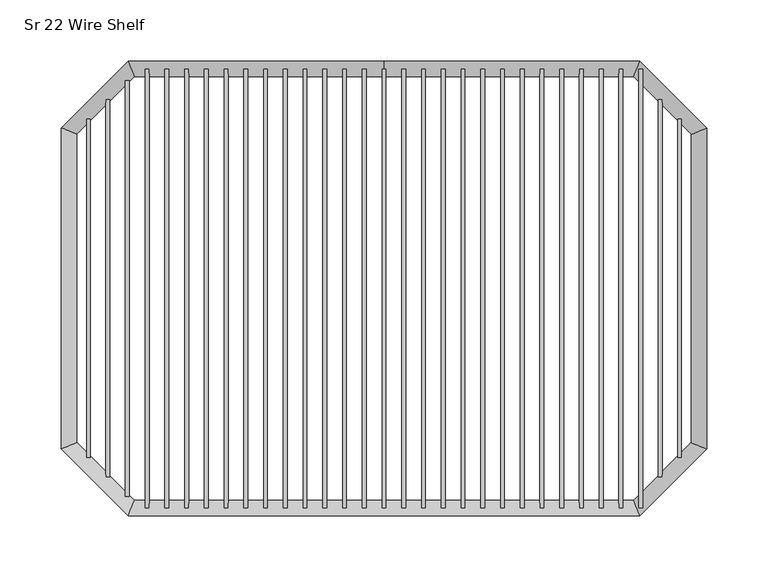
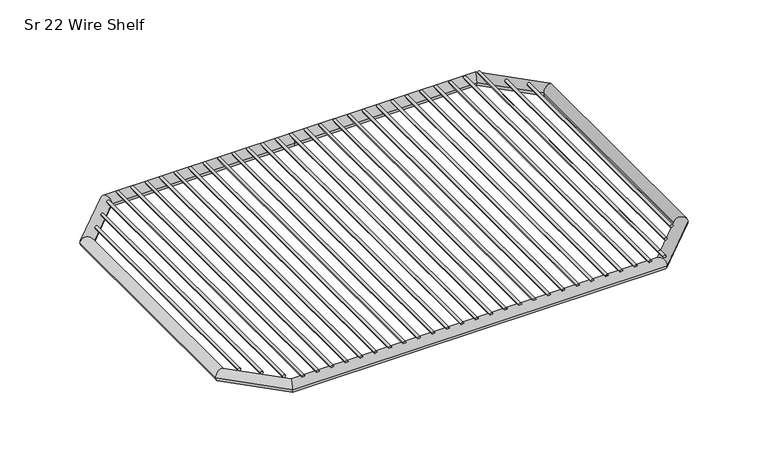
"""IFC4 building model written with IfcOpenShell, lengths in millimetres: furniture geometry, HermanMiller_Carts_CT521_CartShelf : Sr 22 Wire Shelf."""

from ifc_helpers import new_model, si_unit, point, frame, frame_2d, origin, place, context, project, spatial, circle_curve, ellipse_curve, trimmed, segment, composite_curve, outline, extrude, source, transform, mapped, element, save
from ifc_brep_helpers import cylinder_surface, advanced_brep


def sr_22_wire_shelf_b2b4e824(model_context):
    return source(origin(), model_context, "Body", "SolidModel", [
        extrude(outline(composite_curve([segment(trimmed(circle_curve(frame_2d((609.6089246, 104.1704938)), 1.5875), [point((609.6089246, 102.5829938))], [point((609.6089246, 105.7579938))], False, "CARTESIAN"), True, "CONTINUOUS"), segment(trimmed(circle_curve(frame_2d((609.6089246, 104.1704938)), 1.5875), [point((609.6089246, 105.7579938))], [point((609.6089246, 102.5829938))], False, "CARTESIAN"), True, "CONTINUOUS")], self_intersect=False)), frame((0.0, -206.375, 0.0), z_axis=(0.0, 1.0, 0.0), x_axis=(0.0, 0.0, 1.0)), (0.0, 0.0, 1.0), 358.775),
        extrude(outline(composite_curve([segment(trimmed(circle_curve(frame_2d((609.6089246, 120.2897246)), 1.5875), [point((609.6089246, 118.7022246))], [point((609.6089246, 121.8772246))], False, "CARTESIAN"), True, "CONTINUOUS"), segment(trimmed(circle_curve(frame_2d((609.6089246, 120.2897246)), 1.5875), [point((609.6089246, 121.8772246))], [point((609.6089246, 118.7022246))], False, "CARTESIAN"), True, "CONTINUOUS")], self_intersect=False)), frame((0.0, -206.375, 0.0), z_axis=(0.0, 1.0, 0.0), x_axis=(0.0, 0.0, 1.0)), (0.0, 0.0, 1.0), 358.775),
        extrude(outline(composite_curve([segment(trimmed(circle_curve(frame_2d((609.6089246, 136.4089553)), 1.5875), [point((609.6089246, 134.8214553))], [point((609.6089246, 137.9964553))], False, "CARTESIAN"), True, "CONTINUOUS"), segment(trimmed(circle_curve(frame_2d((609.6089246, 136.4089553)), 1.5875), [point((609.6089246, 137.9964553))], [point((609.6089246, 134.8214553))], False, "CARTESIAN"), True, "CONTINUOUS")], self_intersect=False)), frame((0.0, -206.375, 0.0), z_axis=(0.0, 1.0, 0.0), x_axis=(0.0, 0.0, 1.0)), (0.0, 0.0, 1.0), 358.775),
        extrude(outline(composite_curve([segment(trimmed(circle_curve(frame_2d((609.6089246, 152.5281861)), 1.5875), [point((609.6089246, 150.9406861))], [point((609.6089246, 154.1156861))], False, "CARTESIAN"), True, "CONTINUOUS"), segment(trimmed(circle_curve(frame_2d((609.6089246, 152.5281861)), 1.5875), [point((609.6089246, 154.1156861))], [point((609.6089246, 150.9406861))], False, "CARTESIAN"), True, "CONTINUOUS")], self_intersect=False)), frame((0.0, -206.375, 0.0), z_axis=(0.0, 1.0, 0.0), x_axis=(0.0, 0.0, 1.0)), (0.0, 0.0, 1.0), 358.775),
        extrude(outline(composite_curve([segment(trimmed(circle_curve(frame_2d((609.6089246, 88.051263)), 1.5875), [point((609.6089246, 86.463763))], [point((609.6089246, 89.638763))], False, "CARTESIAN"), True, "CONTINUOUS"), segment(trimmed(circle_curve(frame_2d((609.6089246, 88.051263)), 1.5875), [point((609.6089246, 89.638763))], [point((609.6089246, 86.463763))], False, "CARTESIAN"), True, "CONTINUOUS")], self_intersect=False)), frame((0.0, -206.375, 0.0), z_axis=(0.0, 1.0, 0.0), x_axis=(0.0, 0.0, 1.0)), (0.0, 0.0, 1.0), 358.775),
        extrude(outline(composite_curve([segment(trimmed(circle_curve(frame_2d((609.6089246, 71.9320323)), 1.5875), [point((609.6089246, 70.3445323))], [point((609.6089246, 73.5195323))], False, "CARTESIAN"), True, "CONTINUOUS"), segment(trimmed(circle_curve(frame_2d((609.6089246, 71.9320323)), 1.5875), [point((609.6089246, 73.5195323))], [point((609.6089246, 70.3445323))], False, "CARTESIAN"), True, "CONTINUOUS")], self_intersect=False)), frame((0.0, -206.375, 0.0), z_axis=(0.0, 1.0, 0.0), x_axis=(0.0, 0.0, 1.0)), (0.0, 0.0, 1.0), 358.775),
        extrude(outline(composite_curve([segment(trimmed(circle_curve(frame_2d((609.6089246, -40.9025831)), 1.5875), [point((609.6089246, -42.4900831))], [point((609.6089246, -39.3150831))], False, "CARTESIAN"), True, "CONTINUOUS"), segment(trimmed(circle_curve(frame_2d((609.6089246, -40.9025831)), 1.5875), [point((609.6089246, -39.3150831))], [point((609.6089246, -42.4900831))], False, "CARTESIAN"), True, "CONTINUOUS")], self_intersect=False)), frame((0.0, -206.375, 0.0), z_axis=(0.0, 1.0, 0.0), x_axis=(0.0, 0.0, 1.0)), (0.0, 0.0, 1.0), 358.775),
        extrude(outline(composite_curve([segment(trimmed(circle_curve(frame_2d((609.6089246, -24.7833523)), 1.5875), [point((609.6089246, -26.3708523))], [point((609.6089246, -23.1958523))], False, "CARTESIAN"), True, "CONTINUOUS"), segment(trimmed(circle_curve(frame_2d((609.6089246, -24.7833523)), 1.5875), [point((609.6089246, -23.1958523))], [point((609.6089246, -26.3708523))], False, "CARTESIAN"), True, "CONTINUOUS")], self_intersect=False)), frame((0.0, -206.375, 0.0), z_axis=(0.0, 1.0, 0.0), x_axis=(0.0, 0.0, 1.0)), (0.0, 0.0, 1.0), 358.775),
        extrude(outline(composite_curve([segment(trimmed(circle_curve(frame_2d((609.6089246, -57.0218139)), 1.5875), [point((609.6089246, -58.6093139))], [point((609.6089246, -55.4343139))], False, "CARTESIAN"), True, "CONTINUOUS"), segment(trimmed(circle_curve(frame_2d((609.6089246, -57.0218139)), 1.5875), [point((609.6089246, -55.4343139))], [point((609.6089246, -58.6093139))], False, "CARTESIAN"), True, "CONTINUOUS")], self_intersect=False)), frame((0.0, -206.375, 0.0), z_axis=(0.0, 1.0, 0.0), x_axis=(0.0, 0.0, 1.0)), (0.0, 0.0, 1.0), 358.775),
        extrude(outline(composite_curve([segment(trimmed(circle_curve(frame_2d((609.6089246, -8.6641216)), 1.5875), [point((609.6089246, -10.2516216))], [point((609.6089246, -7.0766216))], False, "CARTESIAN"), True, "CONTINUOUS"), segment(trimmed(circle_curve(frame_2d((609.6089246, -8.6641216)), 1.5875), [point((609.6089246, -7.0766216))], [point((609.6089246, -10.2516216))], False, "CARTESIAN"), True, "CONTINUOUS")], self_intersect=False)), frame((0.0, -206.375, 0.0), z_axis=(0.0, 1.0, 0.0), x_axis=(0.0, 0.0, 1.0)), (0.0, 0.0, 1.0), 358.775),
        extrude(outline(composite_curve([segment(trimmed(circle_curve(frame_2d((609.6089246, 39.6935707)), 1.5875), [point((609.6089246, 38.1060707))], [point((609.6089246, 41.2810707))], False, "CARTESIAN"), True, "CONTINUOUS"), segment(trimmed(circle_curve(frame_2d((609.6089246, 39.6935707)), 1.5875), [point((609.6089246, 41.2810707))], [point((609.6089246, 38.1060707))], False, "CARTESIAN"), True, "CONTINUOUS")], self_intersect=False)), frame((0.0, -206.375, 0.0), z_axis=(0.0, 1.0, 0.0), x_axis=(0.0, 0.0, 1.0)), (0.0, 0.0, 1.0), 358.775),
        extrude(outline(composite_curve([segment(trimmed(circle_curve(frame_2d((609.6089246, 7.4551092)), 1.5875), [point((609.6089246, 5.8676092))], [point((609.6089246, 9.0426092))], False, "CARTESIAN"), True, "CONTINUOUS"), segment(trimmed(circle_curve(frame_2d((609.6089246, 7.4551092)), 1.5875), [point((609.6089246, 9.0426092))], [point((609.6089246, 5.8676092))], False, "CARTESIAN"), True, "CONTINUOUS")], self_intersect=False)), frame((0.0, -206.375, 0.0), z_axis=(0.0, 1.0, 0.0), x_axis=(0.0, 0.0, 1.0)), (0.0, 0.0, 1.0), 358.775),
        extrude(outline(composite_curve([segment(trimmed(circle_curve(frame_2d((609.6089246, 55.8128015)), 1.5875), [point((609.6089246, 54.2253015))], [point((609.6089246, 57.4003015))], False, "CARTESIAN"), True, "CONTINUOUS"), segment(trimmed(circle_curve(frame_2d((609.6089246, 55.8128015)), 1.5875), [point((609.6089246, 57.4003015))], [point((609.6089246, 54.2253015))], False, "CARTESIAN"), True, "CONTINUOUS")], self_intersect=False)), frame((0.0, -206.375, 0.0), z_axis=(0.0, 1.0, 0.0), x_axis=(0.0, 0.0, 1.0)), (0.0, 0.0, 1.0), 358.775),
        extrude(outline(composite_curve([segment(trimmed(circle_curve(frame_2d((609.6089246, 23.57434)), 1.5875), [point((609.6089246, 21.98684))], [point((609.6089246, 25.16184))], False, "CARTESIAN"), True, "CONTINUOUS"), segment(trimmed(circle_curve(frame_2d((609.6089246, 23.57434)), 1.5875), [point((609.6089246, 25.16184))], [point((609.6089246, 21.98684))], False, "CARTESIAN"), True, "CONTINUOUS")], self_intersect=False)), frame((0.0, -206.375, 0.0), z_axis=(0.0, 1.0, 0.0), x_axis=(0.0, 0.0, 1.0)), (0.0, 0.0, 1.0), 358.775),
        extrude(outline(composite_curve([segment(trimmed(circle_curve(frame_2d((609.6089246, -218.2141216)), 1.5875), [point((609.6089246, -219.8016216))], [point((609.6089246, -216.6266216))], False, "CARTESIAN"), True, "CONTINUOUS"), segment(trimmed(circle_curve(frame_2d((609.6089246, -218.2141216)), 1.5875), [point((609.6089246, -216.6266216))], [point((609.6089246, -219.8016216))], False, "CARTESIAN"), True, "CONTINUOUS")], self_intersect=False)), frame((0.0, -206.375, 0.0), z_axis=(0.0, 1.0, 0.0), x_axis=(0.0, 0.0, 1.0)), (0.0, 0.0, 1.0), 358.775),
        extrude(outline(composite_curve([segment(trimmed(circle_curve(frame_2d((609.6089246, -234.3333523)), 1.5875), [point((609.6089246, -235.9208523))], [point((609.6089246, -232.7458523))], False, "CARTESIAN"), True, "CONTINUOUS"), segment(trimmed(circle_curve(frame_2d((609.6089246, -234.3333523)), 1.5875), [point((609.6089246, -232.7458523))], [point((609.6089246, -235.9208523))], False, "CARTESIAN"), True, "CONTINUOUS")], self_intersect=False)), frame((0.0, -206.375, 0.0), z_axis=(0.0, 1.0, 0.0), x_axis=(0.0, 0.0, 1.0)), (0.0, 0.0, 1.0), 358.775),
        extrude(outline(composite_curve([segment(trimmed(circle_curve(frame_2d((609.6089246, -169.8564293)), 1.5875), [point((609.6089246, -171.4439293))], [point((609.6089246, -168.2689293))], False, "CARTESIAN"), True, "CONTINUOUS"), segment(trimmed(circle_curve(frame_2d((609.6089246, -169.8564293)), 1.5875), [point((609.6089246, -168.2689293))], [point((609.6089246, -171.4439293))], False, "CARTESIAN"), True, "CONTINUOUS")], self_intersect=False)), frame((0.0, -206.375, 0.0), z_axis=(0.0, 1.0, 0.0), x_axis=(0.0, 0.0, 1.0)), (0.0, 0.0, 1.0), 358.775),
        extrude(outline(composite_curve([segment(trimmed(circle_curve(frame_2d((609.6089246, -185.97566)), 1.5875), [point((609.6089246, -187.56316))], [point((609.6089246, -184.38816))], False, "CARTESIAN"), True, "CONTINUOUS"), segment(trimmed(circle_curve(frame_2d((609.6089246, -185.97566)), 1.5875), [point((609.6089246, -184.38816))], [point((609.6089246, -187.56316))], False, "CARTESIAN"), True, "CONTINUOUS")], self_intersect=False)), frame((0.0, -206.375, 0.0), z_axis=(0.0, 1.0, 0.0), x_axis=(0.0, 0.0, 1.0)), (0.0, 0.0, 1.0), 358.775),
        extrude(outline(composite_curve([segment(trimmed(circle_curve(frame_2d((609.6089246, -153.7371985)), 1.5875), [point((609.6089246, -155.3246985))], [point((609.6089246, -152.1496985))], False, "CARTESIAN"), True, "CONTINUOUS"), segment(trimmed(circle_curve(frame_2d((609.6089246, -153.7371985)), 1.5875), [point((609.6089246, -152.1496985))], [point((609.6089246, -155.3246985))], False, "CARTESIAN"), True, "CONTINUOUS")], self_intersect=False)), frame((0.0, -206.375, 0.0), z_axis=(0.0, 1.0, 0.0), x_axis=(0.0, 0.0, 1.0)), (0.0, 0.0, 1.0), 358.775),
        extrude(outline(composite_curve([segment(trimmed(circle_curve(frame_2d((609.6089246, -121.498737)), 1.5875), [point((609.6089246, -123.086237))], [point((609.6089246, -119.911237))], False, "CARTESIAN"), True, "CONTINUOUS"), segment(trimmed(circle_curve(frame_2d((609.6089246, -121.498737)), 1.5875), [point((609.6089246, -119.911237))], [point((609.6089246, -123.086237))], False, "CARTESIAN"), True, "CONTINUOUS")], self_intersect=False)), frame((0.0, -206.375, 0.0), z_axis=(0.0, 1.0, 0.0), x_axis=(0.0, 0.0, 1.0)), (0.0, 0.0, 1.0), 358.775),
        extrude(outline(composite_curve([segment(trimmed(circle_curve(frame_2d((609.6089246, -89.2602754)), 1.5875), [point((609.6089246, -90.8477754))], [point((609.6089246, -87.6727754))], False, "CARTESIAN"), True, "CONTINUOUS"), segment(trimmed(circle_curve(frame_2d((609.6089246, -89.2602754)), 1.5875), [point((609.6089246, -87.6727754))], [point((609.6089246, -90.8477754))], False, "CARTESIAN"), True, "CONTINUOUS")], self_intersect=False)), frame((0.0, -206.375, 0.0), z_axis=(0.0, 1.0, 0.0), x_axis=(0.0, 0.0, 1.0)), (0.0, 0.0, 1.0), 358.775),
        extrude(outline(composite_curve([segment(trimmed(circle_curve(frame_2d((609.6089246, -137.6179677)), 1.5875), [point((609.6089246, -139.2054677))], [point((609.6089246, -136.0304677))], False, "CARTESIAN"), True, "CONTINUOUS"), segment(trimmed(circle_curve(frame_2d((609.6089246, -137.6179677)), 1.5875), [point((609.6089246, -136.0304677))], [point((609.6089246, -139.2054677))], False, "CARTESIAN"), True, "CONTINUOUS")], self_intersect=False)), frame((0.0, -206.375, 0.0), z_axis=(0.0, 1.0, 0.0), x_axis=(0.0, 0.0, 1.0)), (0.0, 0.0, 1.0), 358.775),
        extrude(outline(composite_curve([segment(trimmed(circle_curve(frame_2d((609.6089246, -105.3795062)), 1.5875), [point((609.6089246, -106.9670062))], [point((609.6089246, -103.7920062))], False, "CARTESIAN"), True, "CONTINUOUS"), segment(trimmed(circle_curve(frame_2d((609.6089246, -105.3795062)), 1.5875), [point((609.6089246, -103.7920062))], [point((609.6089246, -106.9670062))], False, "CARTESIAN"), True, "CONTINUOUS")], self_intersect=False)), frame((0.0, -206.375, 0.0), z_axis=(0.0, 1.0, 0.0), x_axis=(0.0, 0.0, 1.0)), (0.0, 0.0, 1.0), 358.775),
        extrude(outline(composite_curve([segment(trimmed(circle_curve(frame_2d((609.6089246, -73.1410447)), 1.5875), [point((609.6089246, -74.7285447))], [point((609.6089246, -71.5535447))], False, "CARTESIAN"), True, "CONTINUOUS"), segment(trimmed(circle_curve(frame_2d((609.6089246, -73.1410447)), 1.5875), [point((609.6089246, -71.5535447))], [point((609.6089246, -74.7285447))], False, "CARTESIAN"), True, "CONTINUOUS")], self_intersect=False)), frame((0.0, -206.375, 0.0), z_axis=(0.0, 1.0, 0.0), x_axis=(0.0, 0.0, 1.0)), (0.0, 0.0, 1.0), 358.775),
        extrude(outline(composite_curve([segment(trimmed(circle_curve(frame_2d((609.6089246, -202.0948908)), 1.5875), [point((609.6089246, -203.6823908))], [point((609.6089246, -200.5073908))], False, "CARTESIAN"), True, "CONTINUOUS"), segment(trimmed(circle_curve(frame_2d((609.6089246, -202.0948908)), 1.5875), [point((609.6089246, -200.5073908))], [point((609.6089246, -203.6823908))], False, "CARTESIAN"), True, "CONTINUOUS")], self_intersect=False)), frame((0.0, -206.375, 0.0), z_axis=(0.0, 1.0, 0.0), x_axis=(0.0, 0.0, 1.0)), (0.0, 0.0, 1.0), 358.775),
        extrude(outline(composite_curve([segment(trimmed(circle_curve(frame_2d((609.6089246, -250.4525831)), 1.5875), [point((609.6089246, -252.0400831))], [point((609.6089246, -248.8650831))], False, "CARTESIAN"), True, "CONTINUOUS"), segment(trimmed(circle_curve(frame_2d((609.6089246, -250.4525831)), 1.5875), [point((609.6089246, -248.8650831))], [point((609.6089246, -252.0400831))], False, "CARTESIAN"), True, "CONTINUOUS")], self_intersect=False)), frame((0.0, -206.375, 0.0), z_axis=(0.0, 1.0, 0.0), x_axis=(0.0, 0.0, 1.0)), (0.0, 0.0, 1.0), 358.775),
        advanced_brep(
        [(151.9834422, 158.75, 603.2589246), (146.72293, 146.05, 603.2589246), (193.8031861, 98.9697439, 603.2589246), (206.5031861, 104.2302561, 603.2589246), (193.8031861, -152.9447439, 603.2589246), (206.5031861, -158.2052561, 603.2589246), (146.72293, -200.025, 603.2589246), (151.9834422, -212.725, 603.2589246), (-260.7665578, -200.025, 603.2589246), (-266.02707, -212.725, 603.2589246), (-307.8468139, -152.9447439, 603.2589246), (-320.5468139, -158.2052561, 603.2589246), (-307.8468139, 98.9697439, 603.2589246), (-320.5468139, 104.2302561, 603.2589246), (-260.7665578, 146.05, 603.2589246), (-266.02707, 158.75, 603.2589246), (-57.0218139, 146.05, 603.2589246), (-57.0218139, 158.75, 603.2589246)],
        [
            (0, 1, ellipse_curve(frame((149.3531861, 152.4, 603.2589246), z_axis=(0.923879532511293, -0.38268343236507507, 0.0), x_axis=(0.3826834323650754, 0.9238795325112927, 0.0)), 6.8731905, 6.35)),
            (1, 2),
            (2, 3, ellipse_curve(frame((200.1531861, 101.6, 603.2589246), z_axis=(-0.3826834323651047, 0.9238795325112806, 0.0), x_axis=(-0.9238795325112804, -0.38268343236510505, 0.0)), 6.8731905, 6.35)),
            (3, 0),
            (1, 0, ellipse_curve(frame((149.3531861, 152.4, 603.2589246), z_axis=(0.923879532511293, -0.38268343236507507, 0.0), x_axis=(0.3826834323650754, 0.9238795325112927, 0.0)), 6.8731905, 6.35)),
            (3, 2, ellipse_curve(frame((200.1531861, 101.6, 603.2589246), z_axis=(-0.3826834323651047, 0.9238795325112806, 0.0), x_axis=(-0.9238795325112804, -0.38268343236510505, 0.0)), 6.8731905, 6.35)),
            (2, 4),
            (4, 5, ellipse_curve(frame((200.1531861, -155.575, 603.2589246), z_axis=(0.3826834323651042, 0.9238795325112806, 0.0), x_axis=(-0.9238795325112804, 0.382683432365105, 0.0)), 6.8731905, 6.35)),
            (5, 3),
            (5, 4, ellipse_curve(frame((200.1531861, -155.575, 603.2589246), z_axis=(0.3826834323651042, 0.9238795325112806, 0.0), x_axis=(-0.9238795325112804, 0.382683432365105, 0.0)), 6.8731905, 6.35)),
            (4, 6),
            (6, 7, ellipse_curve(frame((149.3531861, -206.375, 603.2589246), z_axis=(0.9238795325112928, 0.3826834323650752, 0.0), x_axis=(-0.38268343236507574, 0.9238795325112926, 0.0)), 6.8731905, 6.35)),
            (7, 5),
            (7, 6, ellipse_curve(frame((149.3531861, -206.375, 603.2589246), z_axis=(0.9238795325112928, 0.3826834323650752, 0.0), x_axis=(-0.38268343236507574, 0.9238795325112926, 0.0)), 6.8731905, 6.35)),
            (6, 8),
            (8, 9, ellipse_curve(frame((-263.3968139, -206.375, 603.2589246), z_axis=(0.9238795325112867, -0.38268343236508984, 0.0), x_axis=(0.3826834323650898, 0.9238795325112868, 0.0)), 6.8731905, 6.35)),
            (9, 7),
            (9, 8, ellipse_curve(frame((-263.3968139, -206.375, 603.2589246), z_axis=(0.9238795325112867, -0.38268343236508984, 0.0), x_axis=(0.3826834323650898, 0.9238795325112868, 0.0)), 6.8731905, 6.35)),
            (8, 10),
            (10, 11, ellipse_curve(frame((-314.1968139, -155.575, 603.2589246), z_axis=(0.38268343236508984, -0.9238795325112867, 0.0), x_axis=(0.9238795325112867, 0.3826834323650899, 0.0)), 6.8731905, 6.35)),
            (11, 9),
            (11, 10, ellipse_curve(frame((-314.1968139, -155.575, 603.2589246), z_axis=(0.38268343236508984, -0.9238795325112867, 0.0), x_axis=(0.9238795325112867, 0.3826834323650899, 0.0)), 6.8731905, 6.35)),
            (10, 12),
            (12, 13, ellipse_curve(frame((-314.1968139, 101.6, 603.2589246), z_axis=(-0.382683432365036, -0.923879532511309, 0.0), x_axis=(0.923879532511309, -0.382683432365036, 0.0)), 6.8731905, 6.35)),
            (13, 11),
            (13, 12, ellipse_curve(frame((-314.1968139, 101.6, 603.2589246), z_axis=(-0.382683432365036, -0.923879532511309, 0.0), x_axis=(0.923879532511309, -0.382683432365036, 0.0)), 6.8731905, 6.35)),
            (12, 14),
            (14, 15, ellipse_curve(frame((-263.3968139, 152.4, 603.2589246), z_axis=(-0.9238795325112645, -0.38268343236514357, 0.0), x_axis=(0.3826834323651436, -0.9238795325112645, 0.0)), 6.8731905, 6.35)),
            (15, 13),
            (15, 14, ellipse_curve(frame((-263.3968139, 152.4, 603.2589246), z_axis=(-0.9238795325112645, -0.38268343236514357, 0.0), x_axis=(0.3826834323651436, -0.9238795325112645, 0.0)), 6.8731905, 6.35)),
            (14, 16),
            (16, 17, circle_curve(frame((-57.0218139, 152.4, 603.2589246), z_axis=(-1.0, 0.0, 0.0), x_axis=(0.0, 1.0, 0.0)), 6.35)),
            (17, 15),
            (17, 16, circle_curve(frame((-57.0218139, 152.4, 603.2589246), z_axis=(-1.0, 0.0, 0.0), x_axis=(0.0, 1.0, 0.0)), 6.35)),
            (16, 1),
            (0, 17),
        ],
        [
            cylinder_surface(frame((149.3531861, 152.4, 603.2589246), z_axis=(-0.7071067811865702, 0.7071067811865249, 0.0), x_axis=(0.7071067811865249, 0.7071067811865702, 0.0)), 6.35),
            cylinder_surface(frame((200.1531861, 101.6, 603.2589246), z_axis=(0.0, 1.0, 0.0), x_axis=(1.0, 0.0, 0.0)), 6.35),
            cylinder_surface(frame((200.1531861, -155.575, 603.2589246), z_axis=(0.7071067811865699, 0.7071067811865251, 0.0), x_axis=(0.7071067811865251, -0.7071067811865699, 0.0)), 6.35),
            cylinder_surface(frame((149.3531861, -206.375, 603.2589246), z_axis=(1.0, 0.0, 0.0), x_axis=(0.0, -1.0, 0.0)), 6.35),
            cylinder_surface(frame((-263.3968139, -206.375, 603.2589246), z_axis=(0.7071067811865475, -0.7071067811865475, 0.0), x_axis=(-0.7071067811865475, -0.7071067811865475, 0.0)), 6.35),
            cylinder_surface(frame((-314.1968139, -155.575, 603.2589246), z_axis=(0.0, -1.0, 0.0), x_axis=(-1.0, 0.0, 0.0)), 6.35),
            cylinder_surface(frame((-314.1968139, 101.6, 603.2589246), z_axis=(-0.7071067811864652, -0.70710678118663, 0.0), x_axis=(-0.70710678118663, 0.7071067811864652, 0.0)), 6.35),
            cylinder_surface(frame((-263.3968139, 152.4, 603.2589246), z_axis=(-1.0, 0.0, 0.0), x_axis=(0.0, 1.0, 0.0)), 6.35),
            cylinder_surface(frame((-57.0218139, 152.4, 603.2589246), z_axis=(-1.0, 0.0, 0.0), x_axis=(0.0, 1.0, 0.0)), 6.35),
        ],
        [
            (0, [[1, 2, 3, 4]]),
            (0, [[5, -4, 6, -2]]),
            (1, [[-3, 7, 8, 9]]),
            (1, [[-6, -9, 10, -7]]),
            (2, [[-8, 11, 12, 13]]),
            (2, [[-10, -13, 14, -11]]),
            (3, [[-12, 15, 16, 17]]),
            (3, [[-14, -17, 18, -15]]),
            (4, [[-16, 19, 20, 21]]),
            (4, [[-18, -21, 22, -19]]),
            (5, [[-20, 23, 24, 25]]),
            (5, [[-22, -25, 26, -23]]),
            (6, [[-24, 27, 28, 29]]),
            (6, [[-26, -29, 30, -27]]),
            (7, [[-28, 31, 32, 33]]),
            (7, [[-30, -33, 34, -31]]),
            (8, [[-32, 35, -1, 36]]),
            (8, [[-34, -36, -5, -35]]),
        ],
    ),
        extrude(outline(composite_curve([segment(trimmed(circle_curve(frame_2d((609.6089246, 152.5281861)), 1.5875), [point((609.6089246, 154.1156861))], [point((609.6089246, 150.9406861))], False, "CARTESIAN"), True, "CONTINUOUS"), segment(trimmed(circle_curve(frame_2d((609.6089246, 152.5281861)), 1.5875), [point((609.6089246, 150.9406861))], [point((609.6089246, 154.1156861))], False, "CARTESIAN"), True, "CONTINUOUS")], self_intersect=False)), frame((0.0, -196.85, 0.0), z_axis=(0.0, 1.0, 0.0), x_axis=(0.0, 0.0, 1.0)), (0.0, 0.0, 1.0), 339.8723592),
        extrude(outline(composite_curve([segment(trimmed(circle_curve(frame_2d((609.6089246, 168.4031861)), 1.5875), [point((609.6089246, 169.9906861))], [point((609.6089246, 166.8156861))], False, "CARTESIAN"), True, "CONTINUOUS"), segment(trimmed(circle_curve(frame_2d((609.6089246, 168.4031861)), 1.5875), [point((609.6089246, 166.8156861))], [point((609.6089246, 169.9906861))], False, "CARTESIAN"), True, "CONTINUOUS")], self_intersect=False)), frame((0.0, -180.975, 0.0), z_axis=(0.0, 1.0, 0.0), x_axis=(0.0, 0.0, 1.0)), (0.0, 0.0, 1.0), 308.1223592),
        extrude(outline(composite_curve([segment(trimmed(circle_curve(frame_2d((609.6089246, 184.2781861)), 1.5875), [point((609.6089246, 185.8656861))], [point((609.6089246, 182.6906861))], False, "CARTESIAN"), True, "CONTINUOUS"), segment(trimmed(circle_curve(frame_2d((609.6089246, 184.2781861)), 1.5875), [point((609.6089246, 182.6906861))], [point((609.6089246, 185.8656861))], False, "CARTESIAN"), True, "CONTINUOUS")], self_intersect=False)), frame((0.0, -165.1, 0.0), z_axis=(0.0, 1.0, 0.0), x_axis=(0.0, 0.0, 1.0)), (0.0, 0.0, 1.0), 276.3723592),
        extrude(outline(composite_curve([segment(trimmed(circle_curve(frame_2d((609.6089246, -266.5718139)), 1.5875), [point((609.6089246, -268.1593139))], [point((609.6089246, -264.9843139))], False, "CARTESIAN"), True, "CONTINUOUS"), segment(trimmed(circle_curve(frame_2d((609.6089246, -266.5718139)), 1.5875), [point((609.6089246, -264.9843139))], [point((609.6089246, -268.1593139))], False, "CARTESIAN"), True, "CONTINUOUS")], self_intersect=False)), frame((0.0, -196.85, 0.0), z_axis=(0.0, 1.0, 0.0), x_axis=(0.0, 0.0, 1.0)), (0.0, 0.0, 1.0), 339.8723592),
        extrude(outline(composite_curve([segment(trimmed(circle_curve(frame_2d((609.6089246, -282.4468139)), 1.5875), [point((609.6089246, -284.0343139))], [point((609.6089246, -280.8593139))], False, "CARTESIAN"), True, "CONTINUOUS"), segment(trimmed(circle_curve(frame_2d((609.6089246, -282.4468139)), 1.5875), [point((609.6089246, -280.8593139))], [point((609.6089246, -284.0343139))], False, "CARTESIAN"), True, "CONTINUOUS")], self_intersect=False)), frame((0.0, -180.975, 0.0), z_axis=(0.0, 1.0, 0.0), x_axis=(0.0, 0.0, 1.0)), (0.0, 0.0, 1.0), 308.1223592),
        extrude(outline(composite_curve([segment(trimmed(circle_curve(frame_2d((609.6089246, -298.3218139)), 1.5875), [point((609.6089246, -299.9093139))], [point((609.6089246, -296.7343139))], False, "CARTESIAN"), True, "CONTINUOUS"), segment(trimmed(circle_curve(frame_2d((609.6089246, -298.3218139)), 1.5875), [point((609.6089246, -296.7343139))], [point((609.6089246, -299.9093139))], False, "CARTESIAN"), True, "CONTINUOUS")], self_intersect=False)), frame((0.0, -165.1, 0.0), z_axis=(0.0, 1.0, 0.0), x_axis=(0.0, 0.0, 1.0)), (0.0, 0.0, 1.0), 276.3723592),
    ])


if __name__ == "__main__":
    model = new_model("IFC4")
    model_context = context("Model", 3, world=origin())
    ifc_project = project(units=[si_unit("LENGTHUNIT", "METRE", prefix="MILLI")], contexts=[model_context])
    site = spatial("IfcSite", under=ifc_project)
    building = spatial("IfcBuilding", under=site)
    placement = place(None, origin())
    sr_22_wire_shelf_shape = sr_22_wire_shelf_b2b4e824(model_context)
    element("IfcFurniture", 1, ObjectType="HermanMiller_Carts_CT521_CartShelf : Sr 22 Wire Shelf", at=placement, inside=building, context=model_context, shape_type="MappedRepresentation", body=[
        mapped(sr_22_wire_shelf_shape, transform((0.0, 0.0, 0.0), x_axis=(1.0, 0.0, 0.0), y_axis=(0.0, 1.0, 0.0), z_axis=(0.0, 0.0, 1.0))),
    ])
    save(model, "model.ifc")
